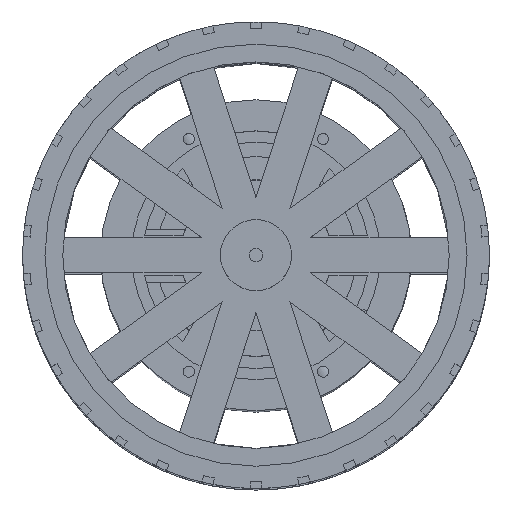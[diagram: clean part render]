
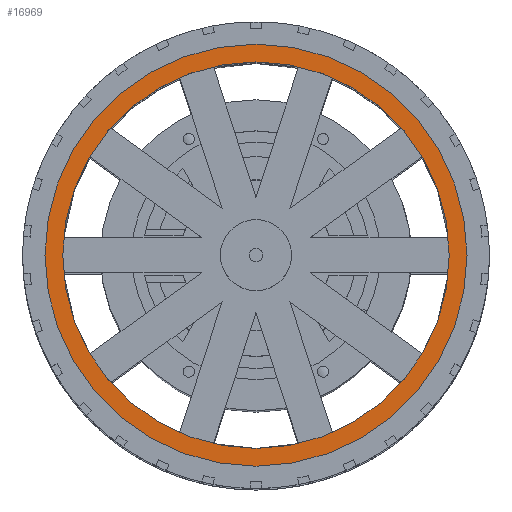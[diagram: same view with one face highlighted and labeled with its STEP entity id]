
A CAD part, top view. The second image highlights one B-rep face of the part: STEP entity #16969.
In plain terms, the highlighted planar face has unit normal (0, 0, 1).
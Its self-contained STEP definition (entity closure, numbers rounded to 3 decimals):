
#16903 = CYLINDRICAL_SURFACE('',#16904,47.5);
#16904 = AXIS2_PLACEMENT_3D('',#16905,#16906,#16907);
#16905 = CARTESIAN_POINT('',(0.,0.,186.));
#16906 = DIRECTION('',(-0.,-0.,-1.));
#16907 = DIRECTION('',(1.,0.,0.));
#16920 = VERTEX_POINT('',#16921);
#16921 = CARTESIAN_POINT('',(47.5,0.,198.));
#16942 = EDGE_CURVE('',#16920,#16920,#16943,.T.);
#16943 = SURFACE_CURVE('',#16944,(#16949,#16956),.PCURVE_S1.);
#16944 = CIRCLE('',#16945,47.5);
#16945 = AXIS2_PLACEMENT_3D('',#16946,#16947,#16948);
#16946 = CARTESIAN_POINT('',(0.,0.,198.));
#16947 = DIRECTION('',(0.,0.,1.));
#16948 = DIRECTION('',(1.,0.,0.));
#16949 = PCURVE('',#16903,#16950);
#16950 = DEFINITIONAL_REPRESENTATION('',(#16951),#16955);
#16951 = LINE('',#16952,#16953);
#16952 = CARTESIAN_POINT('',(-0.,-12.));
#16953 = VECTOR('',#16954,1.);
#16954 = DIRECTION('',(-1.,0.));
#16955 = ( GEOMETRIC_REPRESENTATION_CONTEXT(2) 
PARAMETRIC_REPRESENTATION_CONTEXT() REPRESENTATION_CONTEXT('2D SPACE',''
  ) );
#16956 = PCURVE('',#16957,#16962);
#16957 = PLANE('',#16958);
#16958 = AXIS2_PLACEMENT_3D('',#16959,#16960,#16961);
#16959 = CARTESIAN_POINT('',(0.,0.,198.
    ));
#16960 = DIRECTION('',(0.,0.,1.));
#16961 = DIRECTION('',(1.,0.,-0.));
#16962 = DEFINITIONAL_REPRESENTATION('',(#16963),#16967);
#16963 = CIRCLE('',#16964,47.5);
#16964 = AXIS2_PLACEMENT_2D('',#16965,#16966);
#16965 = CARTESIAN_POINT('',(0.,0.));
#16966 = DIRECTION('',(1.,0.));
#16967 = ( GEOMETRIC_REPRESENTATION_CONTEXT(2) 
PARAMETRIC_REPRESENTATION_CONTEXT() REPRESENTATION_CONTEXT('2D SPACE',''
  ) );
#16969 = ADVANCED_FACE('',(#16970,#16973),#16957,.T.);
#16970 = FACE_BOUND('',#16971,.T.);
#16971 = EDGE_LOOP('',(#16972));
#16972 = ORIENTED_EDGE('',*,*,#16942,.T.);
#16973 = FACE_BOUND('',#16974,.T.);
#16974 = EDGE_LOOP('',(#16975));
#16975 = ORIENTED_EDGE('',*,*,#16976,.F.);
#16976 = EDGE_CURVE('',#16977,#16977,#16979,.T.);
#16977 = VERTEX_POINT('',#16978);
#16978 = CARTESIAN_POINT('',(43.5,0.,198.));
#16979 = SURFACE_CURVE('',#16980,(#16985,#16992),.PCURVE_S1.);
#16980 = CIRCLE('',#16981,43.5);
#16981 = AXIS2_PLACEMENT_3D('',#16982,#16983,#16984);
#16982 = CARTESIAN_POINT('',(0.,0.,198.)
  );
#16983 = DIRECTION('',(0.,0.,1.));
#16984 = DIRECTION('',(1.,0.,0.));
#16985 = PCURVE('',#16957,#16986);
#16986 = DEFINITIONAL_REPRESENTATION('',(#16987),#16991);
#16987 = CIRCLE('',#16988,43.5);
#16988 = AXIS2_PLACEMENT_2D('',#16989,#16990);
#16989 = CARTESIAN_POINT('',(0.,0.));
#16990 = DIRECTION('',(1.,0.));
#16991 = ( GEOMETRIC_REPRESENTATION_CONTEXT(2) 
PARAMETRIC_REPRESENTATION_CONTEXT() REPRESENTATION_CONTEXT('2D SPACE',''
  ) );
#16992 = PCURVE('',#16993,#16998);
#16993 = CYLINDRICAL_SURFACE('',#16994,43.5);
#16994 = AXIS2_PLACEMENT_3D('',#16995,#16996,#16997);
#16995 = CARTESIAN_POINT('',(0.,0.,186.)
  );
#16996 = DIRECTION('',(-0.,-0.,-1.));
#16997 = DIRECTION('',(1.,0.,0.));
#16998 = DEFINITIONAL_REPRESENTATION('',(#16999),#17003);
#16999 = LINE('',#17000,#17001);
#17000 = CARTESIAN_POINT('',(-0.,-12.));
#17001 = VECTOR('',#17002,1.);
#17002 = DIRECTION('',(-1.,0.));
#17003 = ( GEOMETRIC_REPRESENTATION_CONTEXT(2) 
PARAMETRIC_REPRESENTATION_CONTEXT() REPRESENTATION_CONTEXT('2D SPACE',''
  ) );
